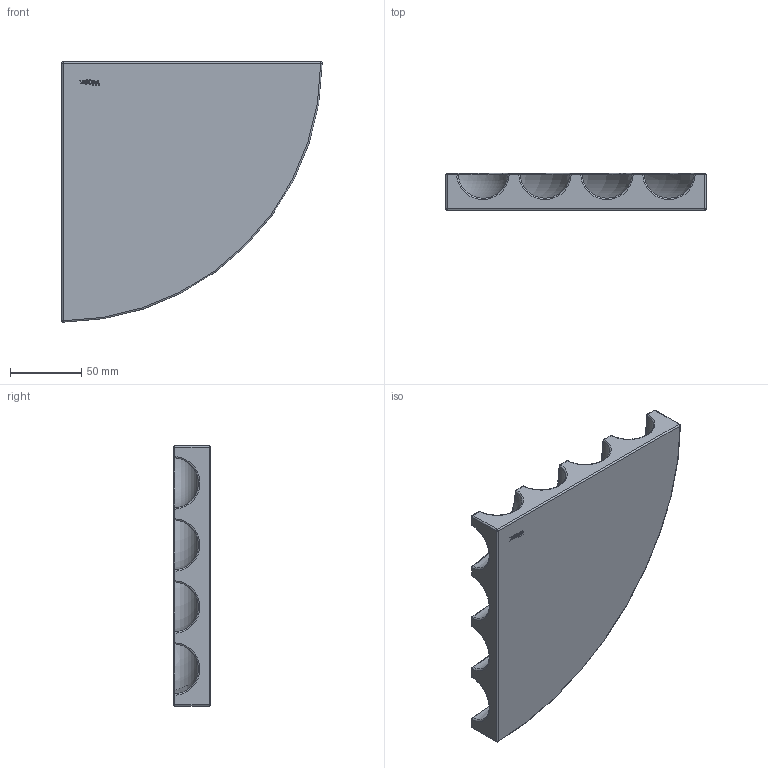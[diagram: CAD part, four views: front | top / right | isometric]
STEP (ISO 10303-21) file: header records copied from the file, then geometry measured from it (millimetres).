
FILE_DESCRIPTION (( 'STEP AP203' ), '1' );
FILE_NAME ('GINCANA TRAY NUTS 2.STEP', '2023-06-29T09:51:18', ( '' ), ( '' ), 'SwSTEP 2.0', 'SolidWorks 2023', '' );
FILE_SCHEMA (( 'CONFIG_CONTROL_DESIGN' ));
Length unit declared in the file: millimetre
Products named in the file (1): GINCANA TRAY NUTS 2
Bounding box: 183 x 26 x 183 mm (x, y, z)
Volume: 406737 mm3; surface area: 76102.3 mm2
Topology: 1 solids, 1 shells, 129 faces, 316 edges, 173 vertices
Faces by surface type: plane 50, sphere 24, bspline 24, cylinder 17, torus 14
Entity records: 5660 total; most frequent: CARTESIAN_POINT 2809, ORIENTED_EDGE 588, DIRECTION 549, EDGE_CURVE 294, AXIS2_PLACEMENT_3D 197, VERTEX_POINT 173, LINE 155, VECTOR 155
